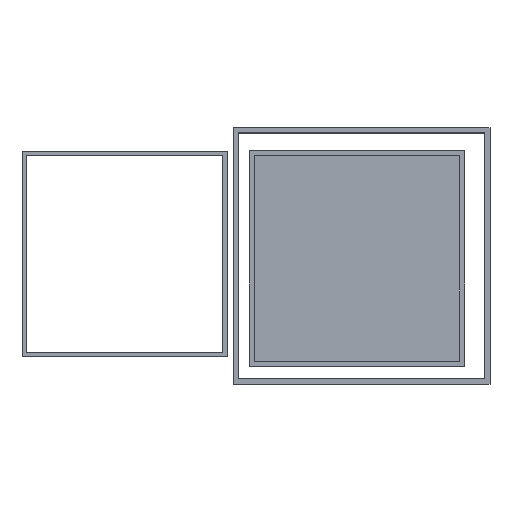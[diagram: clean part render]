
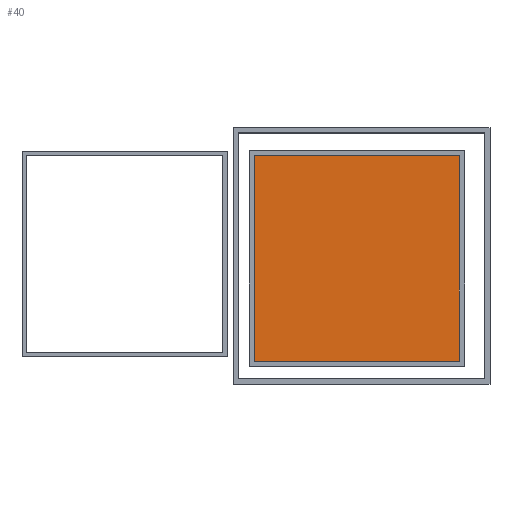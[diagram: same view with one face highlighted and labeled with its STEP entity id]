
A CAD part, top view. The second image highlights one B-rep face of the part: STEP entity #40.
In plain terms, the highlighted planar face has unit normal (0, 0, 1).
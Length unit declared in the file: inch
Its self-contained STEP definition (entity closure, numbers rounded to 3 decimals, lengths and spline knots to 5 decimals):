
#40=ADVANCED_FACE('',(#80),#597,.T.);
#80=FACE_OUTER_BOUND('',#123,.T.);
#123=EDGE_LOOP('',(#234,#235,#236,#237));
#234=ORIENTED_EDGE('',*,*,#377,.T.);
#235=ORIENTED_EDGE('',*,*,#374,.T.);
#236=ORIENTED_EDGE('',*,*,#378,.T.);
#237=ORIENTED_EDGE('',*,*,#372,.T.);
#372=EDGE_CURVE('',#545,#544,#465,.T.);
#374=EDGE_CURVE('',#548,#549,#467,.T.);
#377=EDGE_CURVE('',#544,#548,#470,.T.);
#378=EDGE_CURVE('',#549,#545,#471,.T.);
#465=B_SPLINE_CURVE_WITH_KNOTS('',1,(#947,#948),.UNSPECIFIED.,.F.,.F.,(2,
2),(0.,5.),.UNSPECIFIED.);
#467=B_SPLINE_CURVE_WITH_KNOTS('',1,(#951,#952),.UNSPECIFIED.,.F.,.F.,(2,
2),(0.,5.),.UNSPECIFIED.);
#470=B_SPLINE_CURVE_WITH_KNOTS('',1,(#957,#958),.UNSPECIFIED.,.F.,.F.,(2,
2),(0.,5.001),.UNSPECIFIED.);
#471=B_SPLINE_CURVE_WITH_KNOTS('',1,(#959,#960),.UNSPECIFIED.,.F.,.F.,(2,
2),(0.,5.001),.UNSPECIFIED.);
#544=VERTEX_POINT('',#899);
#545=VERTEX_POINT('',#900);
#548=VERTEX_POINT('',#903);
#549=VERTEX_POINT('',#904);
#597=PLANE('',#728);
#728=AXIS2_PLACEMENT_3D('',#878,#771,$);
#771=DIRECTION('',(0.,0.,1.));
#878=CARTESIAN_POINT('',(-36.93898,15.75887,0.08));
#899=CARTESIAN_POINT('',(-36.93898,15.75887,0.08));
#900=CARTESIAN_POINT('',(-32.93898,15.75887,0.08));
#903=CARTESIAN_POINT('',(-36.93898,11.75807,0.08));
#904=CARTESIAN_POINT('',(-32.93898,11.75807,0.08));
#947=CARTESIAN_POINT('',(-32.93898,15.75887,0.08));
#948=CARTESIAN_POINT('',(-36.93898,15.75887,0.08));
#951=CARTESIAN_POINT('',(-36.93898,11.75807,0.08));
#952=CARTESIAN_POINT('',(-32.93898,11.75807,0.08));
#957=CARTESIAN_POINT('',(-36.93898,15.75887,0.08));
#958=CARTESIAN_POINT('',(-36.93898,11.75807,0.08));
#959=CARTESIAN_POINT('',(-32.93898,11.75807,0.08));
#960=CARTESIAN_POINT('',(-32.93898,15.75887,0.08));
